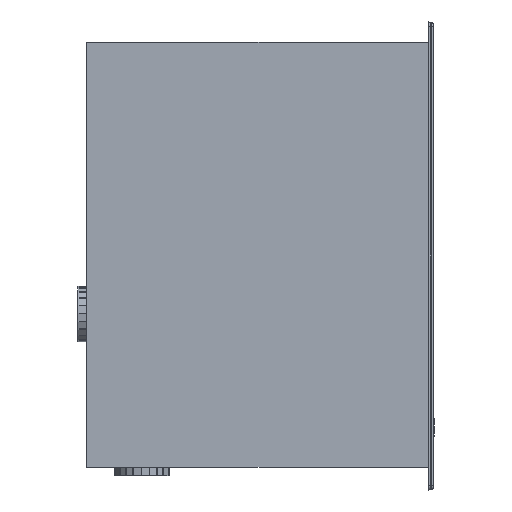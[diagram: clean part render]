
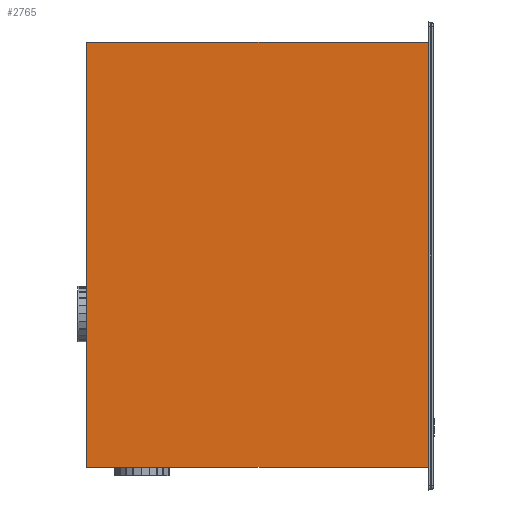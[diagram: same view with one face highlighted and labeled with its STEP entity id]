
A CAD part, left-side view. The second image highlights one B-rep face of the part: STEP entity #2765.
In plain terms, the highlighted planar face has unit normal (-1, 0, 0).
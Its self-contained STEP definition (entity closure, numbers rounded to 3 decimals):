
#2765 = ADVANCED_FACE( '', ( #5987 ), #5988, .F. );
#5987 = FACE_OUTER_BOUND( '', #11744, .T. );
#5988 = PLANE( '', #11745 );
#11744 = EDGE_LOOP( '', ( #21955, #21956, #21957, #21958 ) );
#11745 = AXIS2_PLACEMENT_3D( '', #21959, #21960, #21961 );
#21955 = ORIENTED_EDGE( '', *, *, #29910, .T. );
#21956 = ORIENTED_EDGE( '', *, *, #27377, .F. );
#21957 = ORIENTED_EDGE( '', *, *, #29911, .F. );
#21958 = ORIENTED_EDGE( '', *, *, #28762, .T. );
#21959 = CARTESIAN_POINT( '', ( -290., 0., 497. ) );
#21960 = DIRECTION( '', ( 1., 0., 0. ) );
#21961 = DIRECTION( '', ( 0., 0., -1. ) );
#27377 = EDGE_CURVE( '', #32493, #32488, #32495, .T. );
#28762 = EDGE_CURVE( '', #34708, #34706, #34709, .T. );
#29910 = EDGE_CURVE( '', #34706, #32488, #36273, .T. );
#29911 = EDGE_CURVE( '', #34708, #32493, #36274, .T. );
#32488 = VERTEX_POINT( '', #39902 );
#32493 = VERTEX_POINT( '', #39909 );
#32495 = LINE( '', #39912, #39913 );
#34706 = VERTEX_POINT( '', #43748 );
#34708 = VERTEX_POINT( '', #43751 );
#34709 = LINE( '', #43752, #43753 );
#36273 = LINE( '', #46583, #46584 );
#36274 = LINE( '', #46585, #46586 );
#39902 = CARTESIAN_POINT( '', ( -290., -399.5, 0. ) );
#39909 = CARTESIAN_POINT( '', ( -290., -399.5, 497. ) );
#39912 = CARTESIAN_POINT( '', ( -290., -399.5, 497. ) );
#39913 = VECTOR( '', #48944, 1000. );
#43748 = CARTESIAN_POINT( '', ( -290., 0., 0. ) );
#43751 = CARTESIAN_POINT( '', ( -290., 0., 497. ) );
#43752 = CARTESIAN_POINT( '', ( -290., 0., 497. ) );
#43753 = VECTOR( '', #50080, 1000. );
#46583 = CARTESIAN_POINT( '', ( -290., 0., 0. ) );
#46584 = VECTOR( '', #50986, 1000. );
#46585 = CARTESIAN_POINT( '', ( -290., 0., 497. ) );
#46586 = VECTOR( '', #50987, 1000. );
#48944 = DIRECTION( '', ( 0., 0., -1. ) );
#50080 = DIRECTION( '', ( 0., 0., -1. ) );
#50986 = DIRECTION( '', ( 0., -1., 0. ) );
#50987 = DIRECTION( '', ( 0., -1., 0. ) );
